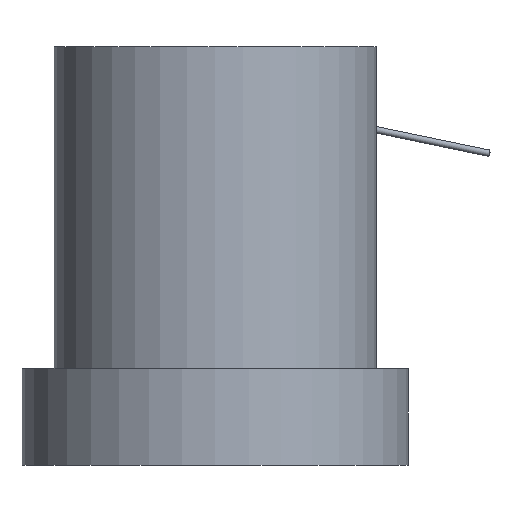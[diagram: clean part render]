
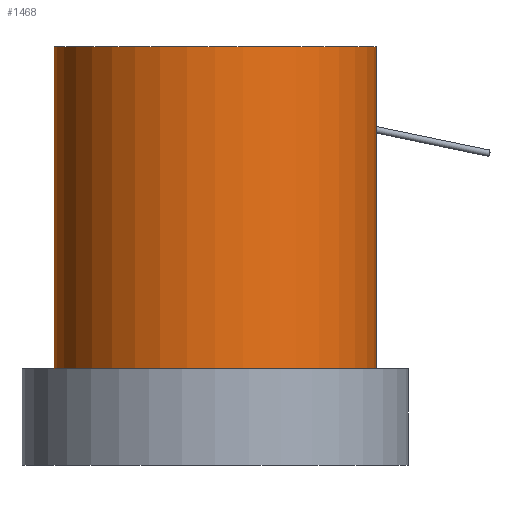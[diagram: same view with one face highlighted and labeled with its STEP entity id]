
A CAD part, left-side view. The second image highlights one B-rep face of the part: STEP entity #1468.
In plain terms, the highlighted cylindrical face has radius 25 mm (diameter 50 mm), a full revolution.
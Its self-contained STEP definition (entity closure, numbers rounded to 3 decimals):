
#291=FACE_BOUND('',#522,.T.);
#292=FACE_BOUND('',#523,.T.);
#293=FACE_BOUND('',#524,.T.);
#348=B_SPLINE_CURVE_WITH_KNOTS('',3,(#2283,#2284,#2285,#2286,#2287,#2288,
#2289,#2290,#2291,#2292,#2293,#2294,#2295,#2296,#2297,#2298,#2299,#2300),
 .UNSPECIFIED.,.F.,.F.,(4,2,2,2,2,2,2,2,4),(0.312,0.389,
0.467,0.545,0.623,0.701,
0.779,0.857,0.935),.UNSPECIFIED.);
#349=B_SPLINE_CURVE_WITH_KNOTS('',3,(#2301,#2302,#2303,#2304,#2305,#2306,
#2307,#2308,#2309,#2310,#2311,#2312,#2313,#2314,#2315,#2316,#2317,#2318,
#2319),.UNSPECIFIED.,.F.,.F.,(4,2,2,2,3,2,2,2,4),(0.935,1.013,
1.091,1.168,1.246,1.324,1.402,
1.48,1.558),.UNSPECIFIED.);
#376=CYLINDRICAL_SURFACE('',#1600,25.);
#522=EDGE_LOOP('',(#1081,#1082));
#523=EDGE_LOOP('',(#1083));
#524=EDGE_LOOP('',(#1084));
#675=CIRCLE('',#1601,25.);
#676=CIRCLE('',#1602,25.);
#745=VERTEX_POINT('',#2281);
#746=VERTEX_POINT('',#2282);
#753=VERTEX_POINT('',#2338);
#754=VERTEX_POINT('',#2340);
#877=EDGE_CURVE('',#745,#746,#348,.T.);
#878=EDGE_CURVE('',#746,#745,#349,.T.);
#885=EDGE_CURVE('',#753,#753,#675,.T.);
#886=EDGE_CURVE('',#754,#754,#676,.T.);
#1081=ORIENTED_EDGE('',*,*,#877,.T.);
#1082=ORIENTED_EDGE('',*,*,#878,.T.);
#1083=ORIENTED_EDGE('',*,*,#885,.T.);
#1084=ORIENTED_EDGE('',*,*,#886,.F.);
#1468=ADVANCED_FACE('',(#291,#292,#293),#376,.T.);
#1600=AXIS2_PLACEMENT_3D('',#2337,#1822,#1823);
#1601=AXIS2_PLACEMENT_3D('',#2339,#1824,#1825);
#1602=AXIS2_PLACEMENT_3D('',#2341,#1826,#1827);
#1822=DIRECTION('center_axis',(0.,0.,1.));
#1823=DIRECTION('ref_axis',(-1.,0.,0.));
#1824=DIRECTION('center_axis',(0.,0.,-1.));
#1825=DIRECTION('ref_axis',(-1.,0.,0.));
#1826=DIRECTION('center_axis',(0.,0.,-1.));
#1827=DIRECTION('ref_axis',(-1.,0.,0.));
#2281=CARTESIAN_POINT('',(25.,0.,12.933));
#2282=CARTESIAN_POINT('',(25.,0.,17.067));
#2283=CARTESIAN_POINT('Ctrl Pts',(25.,0.,12.933));
#2284=CARTESIAN_POINT('Ctrl Pts',(25.,-0.26,12.933));
#2285=CARTESIAN_POINT('Ctrl Pts',(24.996,-0.537,12.985));
#2286=CARTESIAN_POINT('Ctrl Pts',(24.979,-1.046,13.196));
#2287=CARTESIAN_POINT('Ctrl Pts',(24.968,-1.278,13.355));
#2288=CARTESIAN_POINT('Ctrl Pts',(24.946,-1.645,13.722));
#2289=CARTESIAN_POINT('Ctrl Pts',(24.935,-1.804,13.954));
#2290=CARTESIAN_POINT('Ctrl Pts',(24.919,-2.015,14.463));
#2291=CARTESIAN_POINT('Ctrl Pts',(24.914,-2.067,14.74));
#2292=CARTESIAN_POINT('Ctrl Pts',(24.914,-2.067,15.26));
#2293=CARTESIAN_POINT('Ctrl Pts',(24.919,-2.015,15.537));
#2294=CARTESIAN_POINT('Ctrl Pts',(24.935,-1.804,16.046));
#2295=CARTESIAN_POINT('Ctrl Pts',(24.946,-1.645,16.278));
#2296=CARTESIAN_POINT('Ctrl Pts',(24.968,-1.278,16.645));
#2297=CARTESIAN_POINT('Ctrl Pts',(24.979,-1.046,16.804));
#2298=CARTESIAN_POINT('Ctrl Pts',(24.996,-0.537,17.015));
#2299=CARTESIAN_POINT('Ctrl Pts',(25.,-0.26,17.067));
#2300=CARTESIAN_POINT('Ctrl Pts',(25.,0.,17.067));
#2301=CARTESIAN_POINT('Ctrl Pts',(25.,0.,17.067));
#2302=CARTESIAN_POINT('Ctrl Pts',(25.,0.26,17.067));
#2303=CARTESIAN_POINT('Ctrl Pts',(24.996,0.537,17.015));
#2304=CARTESIAN_POINT('Ctrl Pts',(24.979,1.046,16.804));
#2305=CARTESIAN_POINT('Ctrl Pts',(24.968,1.278,16.645));
#2306=CARTESIAN_POINT('Ctrl Pts',(24.946,1.645,16.278));
#2307=CARTESIAN_POINT('Ctrl Pts',(24.935,1.804,16.046));
#2308=CARTESIAN_POINT('Ctrl Pts',(24.919,2.015,15.537));
#2309=CARTESIAN_POINT('Ctrl Pts',(24.914,2.067,15.26));
#2310=CARTESIAN_POINT('Ctrl Pts',(24.914,2.067,15.));
#2311=CARTESIAN_POINT('Ctrl Pts',(24.914,2.067,14.74));
#2312=CARTESIAN_POINT('Ctrl Pts',(24.919,2.015,14.463));
#2313=CARTESIAN_POINT('Ctrl Pts',(24.935,1.804,13.954));
#2314=CARTESIAN_POINT('Ctrl Pts',(24.946,1.645,13.722));
#2315=CARTESIAN_POINT('Ctrl Pts',(24.968,1.278,13.355));
#2316=CARTESIAN_POINT('Ctrl Pts',(24.979,1.046,13.196));
#2317=CARTESIAN_POINT('Ctrl Pts',(24.996,0.537,12.985));
#2318=CARTESIAN_POINT('Ctrl Pts',(25.,0.26,12.933));
#2319=CARTESIAN_POINT('Ctrl Pts',(25.,0.,12.933));
#2337=CARTESIAN_POINT('Origin',(0.,0.,0.));
#2338=CARTESIAN_POINT('',(25.,0.,50.));
#2339=CARTESIAN_POINT('Origin',(0.,0.,50.));
#2340=CARTESIAN_POINT('',(25.,0.,0.));
#2341=CARTESIAN_POINT('Origin',(0.,0.,0.));
